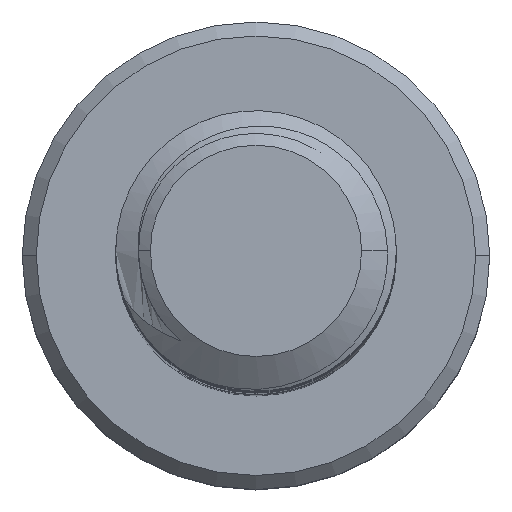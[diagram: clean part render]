
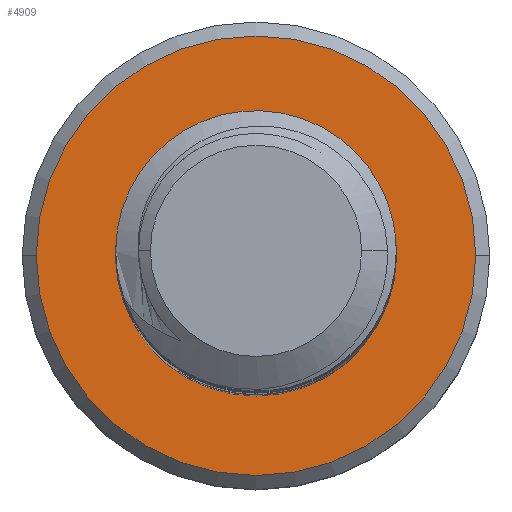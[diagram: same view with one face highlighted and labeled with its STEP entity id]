
A CAD part, top view. The second image highlights one B-rep face of the part: STEP entity #4909.
In plain terms, the highlighted planar face has unit normal (0, 0, 1).
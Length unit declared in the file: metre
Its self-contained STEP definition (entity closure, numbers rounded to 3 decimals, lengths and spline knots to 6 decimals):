
#136 = CARTESIAN_POINT ( 'NONE',  ( 0., 0., -0.06 ) ) ;
#447 = AXIS2_PLACEMENT_3D ( 'NONE', #10776, #4567, #9061 ) ;
#519 = ORIENTED_EDGE ( 'NONE', *, *, #7136, .T. ) ;
#586 = DIRECTION ( 'NONE',  ( 0., 0., 1. ) ) ;
#706 = DIRECTION ( 'NONE',  ( -1., 0., 0. ) ) ;
#717 = EDGE_CURVE ( 'NONE', #10266, #8509, #3719, .T. ) ;
#841 = ORIENTED_EDGE ( 'NONE', *, *, #6891, .F. ) ;
#1014 = CARTESIAN_POINT ( 'NONE',  ( 0.003, 0., -0.06 ) ) ;
#1036 = ORIENTED_EDGE ( 'NONE', *, *, #9221, .F. ) ;
#2238 = CARTESIAN_POINT ( 'NONE',  ( 0., 0., -0.06 ) ) ;
#2366 = AXIS2_PLACEMENT_3D ( 'NONE', #4252, #9434, #706 ) ;
#2532 = VERTEX_POINT ( 'NONE', #1014 ) ;
#2584 = EDGE_LOOP ( 'NONE', ( #1036, #841 ) ) ;
#3282 = ORIENTED_EDGE ( 'NONE', *, *, #717, .T. ) ;
#3653 = DIRECTION ( 'NONE',  ( -1., 0., 0. ) ) ;
#3719 = CIRCLE ( 'NONE', #5897, 0.0047 ) ;
#4252 = CARTESIAN_POINT ( 'NONE',  ( 0., 0., -0.06 ) ) ;
#4407 = CARTESIAN_POINT ( 'NONE',  ( -0.003, 0., -0.06 ) ) ;
#4511 = CIRCLE ( 'NONE', #2366, 0.0047 ) ;
#4567 = DIRECTION ( 'NONE',  ( 0., 0., -1. ) ) ;
#4909 = ADVANCED_FACE ( 'NONE', ( #9006, #8147 ), #5585, .F. ) ;
#5351 = CARTESIAN_POINT ( 'NONE',  ( 0., 0., -0.06 ) ) ;
#5585 = PLANE ( 'NONE',  #447 ) ;
#5677 = DIRECTION ( 'NONE',  ( -1., 0., 0. ) ) ;
#5897 = AXIS2_PLACEMENT_3D ( 'NONE', #136, #7051, #10675 ) ;
#6171 = CIRCLE ( 'NONE', #8324, 0.003 ) ;
#6306 = AXIS2_PLACEMENT_3D ( 'NONE', #2238, #586, #5677 ) ;
#6891 = EDGE_CURVE ( 'NONE', #9939, #2532, #6171, .T. ) ;
#7051 = DIRECTION ( 'NONE',  ( 0., 0., 1. ) ) ;
#7136 = EDGE_CURVE ( 'NONE', #8509, #10266, #4511, .T. ) ;
#7206 = CIRCLE ( 'NONE', #6306, 0.003 ) ;
#7591 = CARTESIAN_POINT ( 'NONE',  ( -0.0047, 0., -0.06 ) ) ;
#7683 = CARTESIAN_POINT ( 'NONE',  ( 0.0047, 0., -0.06 ) ) ;
#8147 = FACE_BOUND ( 'NONE', #2584, .T. ) ;
#8323 = EDGE_LOOP ( 'NONE', ( #3282, #519 ) ) ;
#8324 = AXIS2_PLACEMENT_3D ( 'NONE', #5351, #8931, #3653 ) ;
#8509 = VERTEX_POINT ( 'NONE', #7683 ) ;
#8931 = DIRECTION ( 'NONE',  ( 0., 0., 1. ) ) ;
#9006 = FACE_OUTER_BOUND ( 'NONE', #8323, .T. ) ;
#9061 = DIRECTION ( 'NONE',  ( -1., 0., 0. ) ) ;
#9221 = EDGE_CURVE ( 'NONE', #2532, #9939, #7206, .T. ) ;
#9434 = DIRECTION ( 'NONE',  ( 0., 0., 1. ) ) ;
#9939 = VERTEX_POINT ( 'NONE', #4407 ) ;
#10266 = VERTEX_POINT ( 'NONE', #7591 ) ;
#10675 = DIRECTION ( 'NONE',  ( -1., 0., 0. ) ) ;
#10776 = CARTESIAN_POINT ( 'NONE',  ( 0., 0., -0.06 ) ) ;
